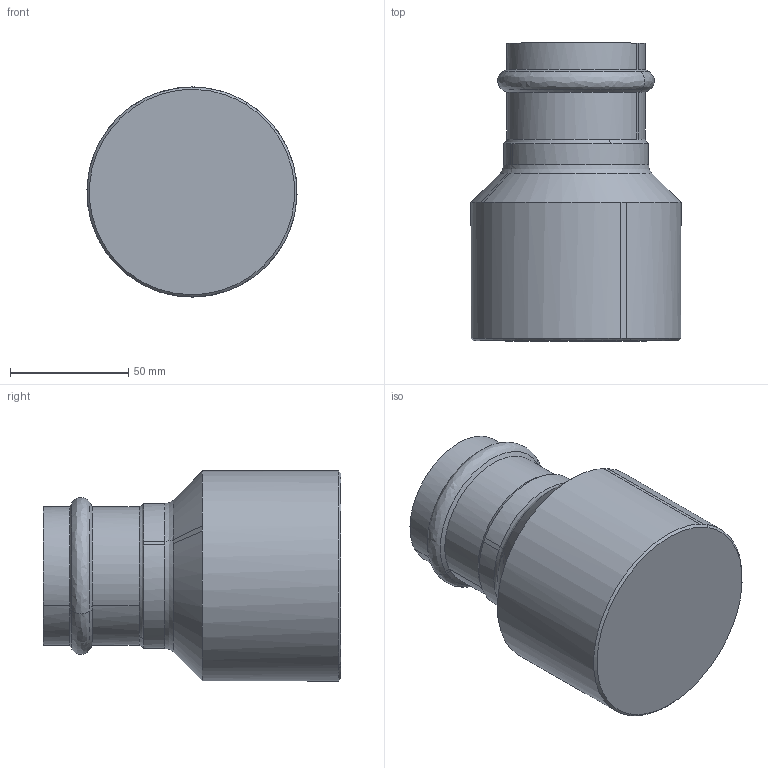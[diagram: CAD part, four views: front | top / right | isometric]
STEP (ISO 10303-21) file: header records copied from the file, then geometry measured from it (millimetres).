
FILE_DESCRIPTION(('STEP AP214'),'1');
FILE_NAME('pim0002791.stp','2015-03-18T16:28:27',('CAD-PIM'),('TransMagic, Inc.'),'TMR11sp0','TransMagic R11',' ');
FILE_SCHEMA(('AUTOMOTIVE_DESIGN'));
Length unit declared in the file: millimetre
Products named in the file (1): pim0002791
Bounding box: 88.88 x 126 x 88.9 mm (x, y, z)
Volume: 486634.8 mm3; surface area: 47376.5 mm2
Topology: 1 solids, 1 shells, 36 faces, 94 edges, 61 vertices
Faces by surface type: bspline 36
Entity records: 2157 total; most frequent: CARTESIAN_POINT 1355, ORIENTED_EDGE 188, EDGE_CURVE 94, VERTEX_POINT 61, STYLED_ITEM 37, PRESENTATION_STYLE_ASSIGNMENT 37, SURFACE_STYLE_USAGE 37, SURFACE_SIDE_STYLE 37
